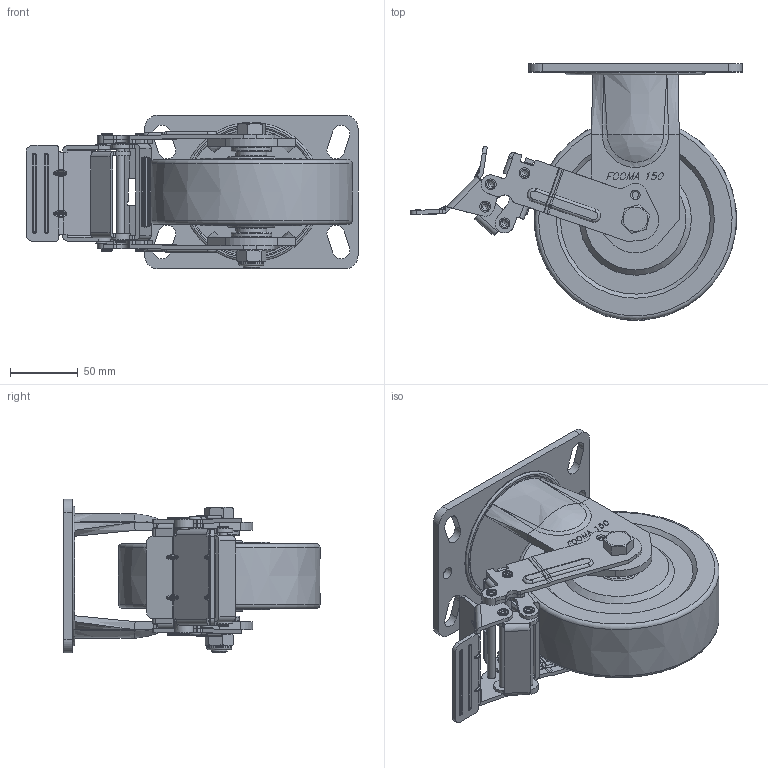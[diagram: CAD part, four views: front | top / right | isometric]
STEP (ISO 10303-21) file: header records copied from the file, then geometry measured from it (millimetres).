
FILE_DESCRIPTION(/* description */ (''),/* implementation_level */ '2;1');
FILE_NAME(/* name */ 'E:\★.DWG\PMH-SERIES\3D\홈페이지용\20180122-STEP\PMH-150-BRF-MCD.stp',/* time_stamp */ '2018-01-22T14:37:53+09:00',/* author */ ('장용하'),/* organization */ (''),/* preprocessor_version */ 'ST-DEVELOPER v16.13',/* originating_system */ 'Autodesk Inventor 2018',/* authorisation */ '');
FILE_SCHEMA (('AUTOMOTIVE_DESIGN { 1 0 10303 214 3 1 1 }'));
Products named in the file (1): PMH-150-BRF-MCD_Shrinkwrap_1
Bounding box: 245.92 x 189.67 x 114 mm (x, y, z)
Volume: 1114029.2 mm3; surface area: 187266.7 mm2
Topology: 3 solids, 3 shells, 1665 faces, 4462 edges, 2869 vertices
Faces by surface type: plane 1124, cylinder 351, bspline 101, torus 62, cone 19, sphere 8
Full cylindrical faces by diameter (mm): 4 x4, 5 x2, 6 x4, 6.2 x13, 7.7 x2, 8 x10, 9 x2, 12 x1, 18.5 x1, 21.667 x2, 21.867 x2, 22.9 x2, 28.133 x2, 28.333 x2, 30 x2, 35 x2, 102.5 x1, 103.5 x1
Entity records: 54670 total; most frequent: CARTESIAN_POINT 11737, ORIENTED_EDGE 8634, DIRECTION 8233, EDGE_CURVE 4317, LINE 3341, VECTOR 3341, VERTEX_POINT 2842, AXIS2_PLACEMENT_3D 2446
